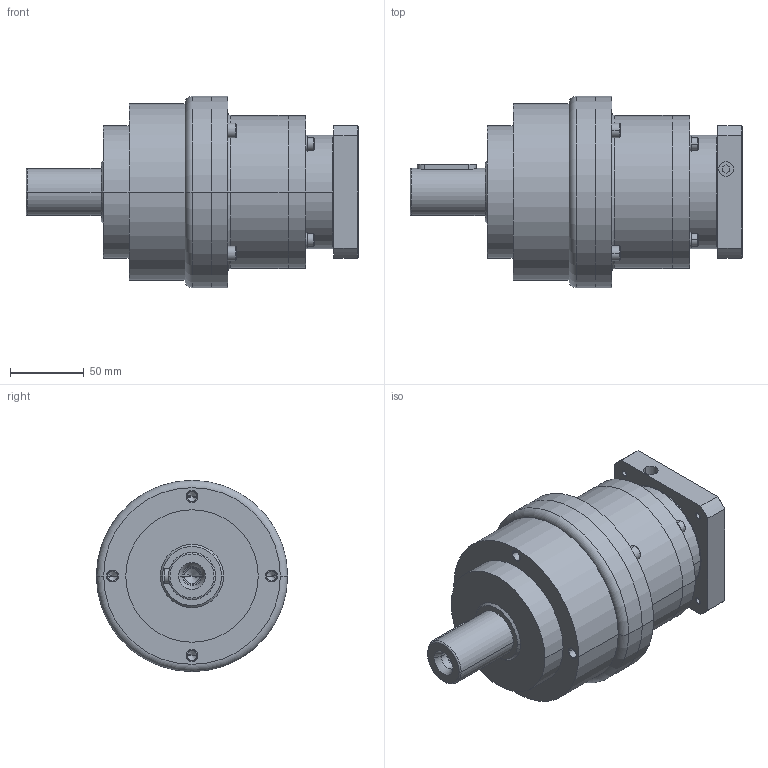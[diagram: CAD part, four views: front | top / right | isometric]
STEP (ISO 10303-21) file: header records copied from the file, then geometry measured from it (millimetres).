
FILE_DESCRIPTION((''),'2;1');
FILE_NAME('AE1202-P4130303_ASM','2005-10-31T',('D4016'),(''),'PRO/ENGINEER BY PARAMETRIC TECHNOLOGY CORPORATION, 2001280','PRO/ENGINEER BY PARAMETRIC TECHNOLOGY CORPORATION, 2001280','');
FILE_SCHEMA(('CONFIG_CONTROL_DESIGN'));
Length unit declared in the file: millimetre
Products named in the file (10): AE120-2; P244; 220120705; RG-SET3-4_ASM; PK730001; 233100003; 220100606; COVER-SET-3_ASM; P4130303; AE1202-P4130303_ASM
Assembly tree (18 placements, depth 3):
  AE1202-P4130303_ASM
    AE120-2
    RG-SET3-4_ASM
      P244
      220120705  x4
    COVER-SET-3_ASM
      PK730001
      233100003  x4
      220100606  x4
    P4130303
Bounding box: 225.5 x 130 x 130 mm (x, y, z)
Volume: 1577350 mm3; surface area: 173871.8 mm2
Topology: 16 solids, 25 shells, 478 faces, 1044 edges, 631 vertices
Faces by surface type: cylinder 195, plane 189, cone 66, torus 28
Entity records: 8088 total; most frequent: DIRECTION 1508, CARTESIAN_POINT 1471, ORIENTED_EDGE 1168, AXIS2_PLACEMENT_3D 617, EDGE_CURVE 602, VERTEX_POINT 379, EDGE_LOOP 331, CIRCLE 303
